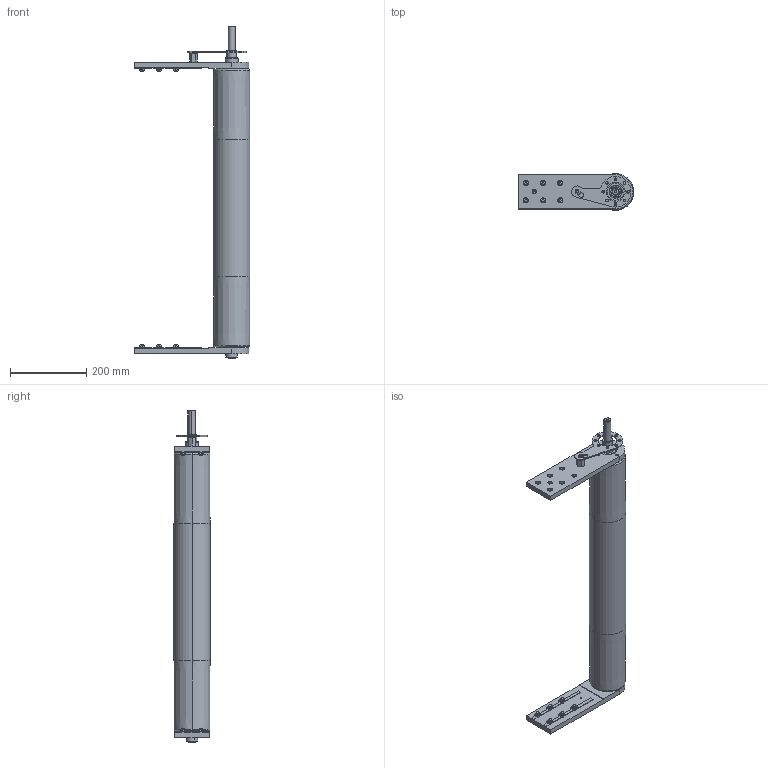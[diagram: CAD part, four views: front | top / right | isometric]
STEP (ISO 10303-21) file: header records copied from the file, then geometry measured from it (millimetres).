
FILE_DESCRIPTION (( 'STEP AP203' ), '1' );
FILE_NAME ('084.095.KD.44.700.STEP', '2015-11-12T09:58:38', ( '' ), ( '' ), 'SwSTEP 2.0', 'SolidWorks 2012', '' );
FILE_SCHEMA (( 'CONFIG_CONTROL_DESIGN' ));
Length unit declared in the file: millimetre
Products named in the file (1): 084.095.KD.44.700
Bounding box: 302.5 x 95 x 868.5 mm (x, y, z)
Surface area: 406687.5 mm2 (no closed solid volume)
Topology: 0 solids, 51 shells, 536 faces, 1643 edges, 1140 vertices
Faces by surface type: plane 299, cylinder 138, torus 52, cone 39, bspline 6, sphere 2
Entity records: 19431 total; most frequent: CARTESIAN_POINT 4684, DIRECTION 3123, ORIENTED_EDGE 2743, EDGE_CURVE 1639, AXIS2_PLACEMENT_3D 1145, VERTEX_POINT 1138, VECTOR 833, LINE 833
